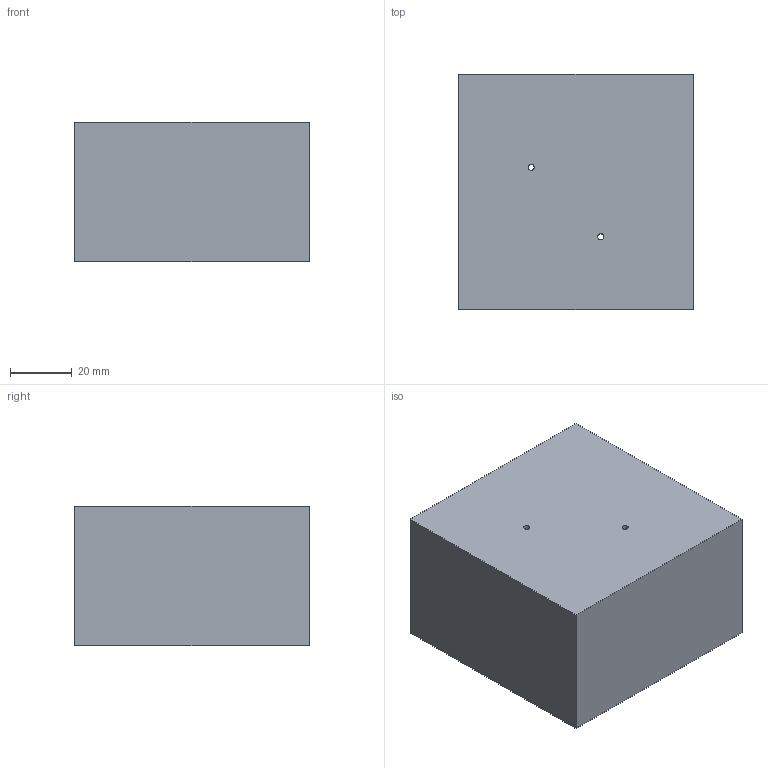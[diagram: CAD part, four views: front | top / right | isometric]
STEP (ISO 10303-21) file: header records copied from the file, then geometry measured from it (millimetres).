
FILE_DESCRIPTION (( 'STEP AP203' ), '1' );
FILE_NAME ('FT20ES16.STEP', '2026-06-26T01:11:23', ( 'USER' ), ( '' ), 'SwSTEP 2.0', 'SolidWorks 2023', '' );
FILE_SCHEMA (( 'CONFIG_CONTROL_DESIGN' ));
Length unit declared in the file: millimetre
Products named in the file (1): FT20ES16
Bounding box: 76 x 76 x 45 mm (x, y, z)
Volume: 183969 mm3; surface area: 34349.1 mm2
Topology: 1 solids, 1 shells, 40 faces, 95 edges, 57 vertices
Faces by surface type: cylinder 22, plane 10, cone 8
Entity records: 1348 total; most frequent: CARTESIAN_POINT 346, DIRECTION 194, ORIENTED_EDGE 190, EDGE_CURVE 95, AXIS2_PLACEMENT_3D 77, VERTEX_POINT 57, EDGE_LOOP 50, FACE_OUTER_BOUND 40
